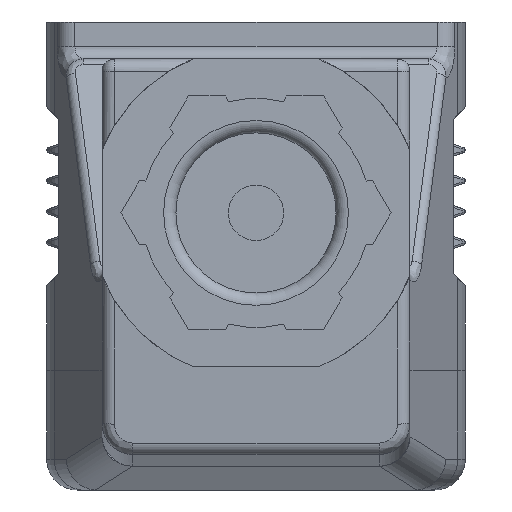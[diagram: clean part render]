
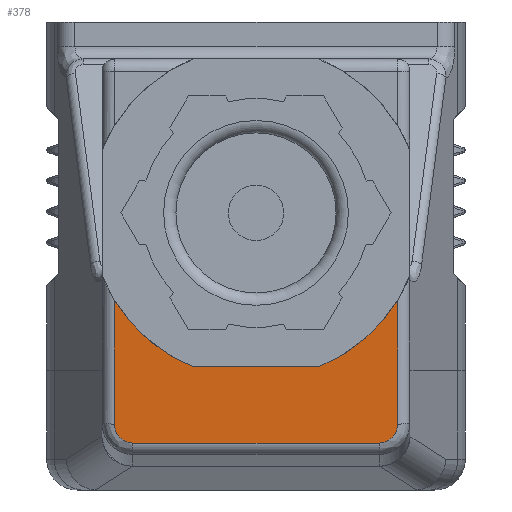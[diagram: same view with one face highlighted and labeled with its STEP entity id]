
A CAD part, left-side view. The second image highlights one B-rep face of the part: STEP entity #378.
In plain terms, the highlighted planar face has unit normal (-0.999, 0, -0.052).
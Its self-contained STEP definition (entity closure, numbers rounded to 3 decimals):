
#169=PLANE('',#3942);
#378=ADVANCED_FACE('',(#693),#169,.T.);
#693=FACE_OUTER_BOUND('',#915,.T.);
#915=EDGE_LOOP('',(#1360,#1361,#1362,#1363,#1364,#1365,#1366,#1367));
#1152=ELLIPSE('',#3940,13.519,13.5);
#1153=ELLIPSE('',#3941,13.519,13.5);
#1202=B_SPLINE_CURVE_WITH_KNOTS('',3,(#5524,#5525,#5526,#5527),
 .UNSPECIFIED.,.F.,.F.,(4,4),(0.,1.),.UNSPECIFIED.);
#1203=B_SPLINE_CURVE_WITH_KNOTS('',3,(#5531,#5532,#5533,#5534),
 .UNSPECIFIED.,.F.,.F.,(4,4),(0.,1.),.UNSPECIFIED.);
#1360=ORIENTED_EDGE('',*,*,#2822,.F.);
#1361=ORIENTED_EDGE('',*,*,#2823,.T.);
#1362=ORIENTED_EDGE('',*,*,#2824,.T.);
#1363=ORIENTED_EDGE('',*,*,#2825,.T.);
#1364=ORIENTED_EDGE('',*,*,#2826,.T.);
#1365=ORIENTED_EDGE('',*,*,#2827,.T.);
#1366=ORIENTED_EDGE('',*,*,#2828,.F.);
#1367=ORIENTED_EDGE('',*,*,#2829,.T.);
#2464=VERTEX_POINT('',#5520);
#2465=VERTEX_POINT('',#5521);
#2466=VERTEX_POINT('',#5523);
#2467=VERTEX_POINT('',#5528);
#2468=VERTEX_POINT('',#5530);
#2469=VERTEX_POINT('',#5535);
#2470=VERTEX_POINT('',#5537);
#2471=VERTEX_POINT('',#5539);
#2822=EDGE_CURVE('',#2464,#2465,#1152,.T.);
#2823=EDGE_CURVE('',#2464,#2466,#3367,.T.);
#2824=EDGE_CURVE('',#2466,#2467,#1202,.T.);
#2825=EDGE_CURVE('',#2467,#2468,#3368,.T.);
#2826=EDGE_CURVE('',#2468,#2469,#1203,.T.);
#2827=EDGE_CURVE('',#2469,#2470,#3369,.T.);
#2828=EDGE_CURVE('',#2471,#2470,#1153,.T.);
#2829=EDGE_CURVE('',#2471,#2465,#3370,.T.);
#3367=LINE('',#5522,#3673);
#3368=LINE('',#5529,#3674);
#3369=LINE('',#5536,#3675);
#3370=LINE('',#5540,#3676);
#3673=VECTOR('',#4391,1.);
#3674=VECTOR('',#4392,1.);
#3675=VECTOR('',#4393,1.);
#3676=VECTOR('',#4396,1.);
#3940=AXIS2_PLACEMENT_3D('',#5519,#4389,#4390);
#3941=AXIS2_PLACEMENT_3D('',#5538,#4394,#4395);
#3942=AXIS2_PLACEMENT_3D('',#5541,#4397,#4398);
#4389=DIRECTION('',(-0.999,0.,-0.052));
#4390=DIRECTION('',(-0.052,0.,0.999));
#4391=DIRECTION('',(0.052,0.,-0.999));
#4392=DIRECTION('',(0.,-1.,0.));
#4393=DIRECTION('',(-0.052,0.,0.999));
#4394=DIRECTION('',(-0.999,0.,-0.052));
#4395=DIRECTION('',(-0.052,0.,0.999));
#4396=DIRECTION('',(0.,1.,0.));
#4397=DIRECTION('',(-0.999,0.,-0.052));
#4398=DIRECTION('',(0.052,0.,-0.999));
#5519=CARTESIAN_POINT('',(-105.155,-15.85,-652.));
#5520=CARTESIAN_POINT('',(-104.785,-4.35,-659.071));
#5521=CARTESIAN_POINT('',(-104.5,-10.751,-664.5));
#5522=CARTESIAN_POINT('',(-104.5,-4.35,-664.5));
#5523=CARTESIAN_POINT('',(-104.257,-4.35,-669.143));
#5524=CARTESIAN_POINT('',(-104.257,-4.35,-669.143));
#5525=CARTESIAN_POINT('',(-104.214,-4.35,-669.96));
#5526=CARTESIAN_POINT('',(-104.176,-5.054,-670.685));
#5527=CARTESIAN_POINT('',(-104.176,-5.85,-670.685));
#5528=CARTESIAN_POINT('',(-104.176,-5.85,-670.685));
#5529=CARTESIAN_POINT('',(-104.176,-15.919,-670.685));
#5530=CARTESIAN_POINT('',(-104.176,-25.85,-670.685));
#5531=CARTESIAN_POINT('',(-104.176,-25.85,-670.685));
#5532=CARTESIAN_POINT('',(-104.176,-26.645,-670.685));
#5533=CARTESIAN_POINT('',(-104.214,-27.35,-669.962));
#5534=CARTESIAN_POINT('',(-104.257,-27.35,-669.143));
#5535=CARTESIAN_POINT('',(-104.257,-27.35,-669.143));
#5536=CARTESIAN_POINT('',(-104.5,-27.35,-664.5));
#5537=CARTESIAN_POINT('',(-104.785,-27.35,-659.071));
#5538=CARTESIAN_POINT('',(-105.155,-15.85,-652.));
#5539=CARTESIAN_POINT('',(-104.5,-20.949,-664.5));
#5540=CARTESIAN_POINT('',(-104.5,-15.919,-664.5));
#5541=CARTESIAN_POINT('',(-104.5,-15.919,-664.5));
